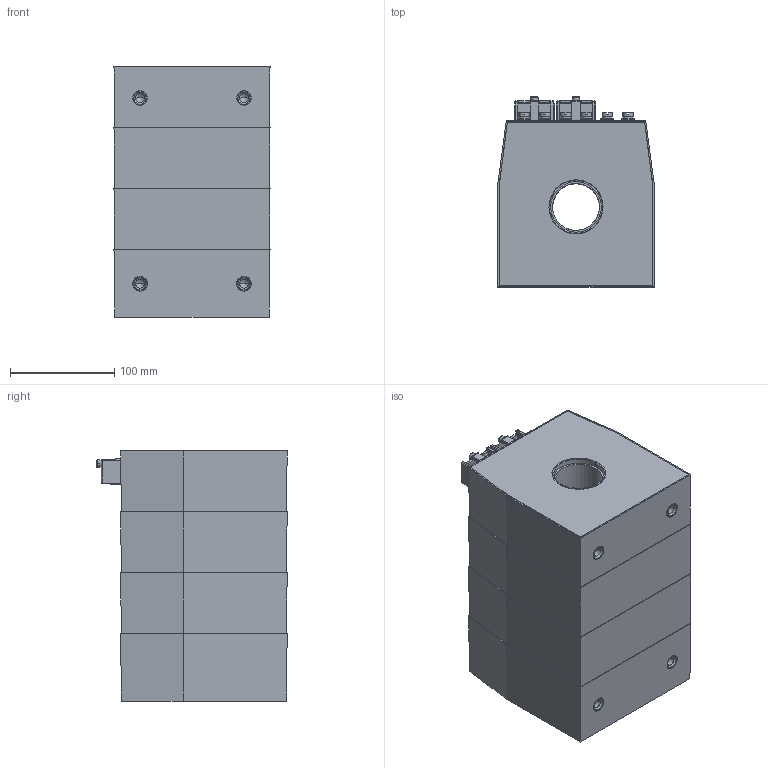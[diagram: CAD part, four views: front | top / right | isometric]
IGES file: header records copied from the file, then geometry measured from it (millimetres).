
Start section: IGES file generated from Kompas f.0 for Windows drawing by the IGES translator from Ascon Ltd., translator version IGESOUT-5.1.
Global section: file name: C:\Ðàáîòà\Èçâåùåíèÿ 5\ÒØÏ-ÍÒÇ-0.66-61...,71...,81... (ñáîðíûé)\Âåðñèÿ îò 21.05.24\3D ìîäåëü\ÒØÏ-ÍÒÇ-0,66-64À\ÒØÏ-ÍÒÇ-0,66-64À (45 ìì, 4-é ãàáàðèò).igs; native system: Kompas( 32 bit ) for Windows; preprocessor: 1.0; author: 123; organization: Microsoft; date: -17750727:093109; units: millimetre
Bounding box: 150 x 182.93 x 240.5 mm (x, y, z)
Volume: 784159.1 mm3; surface area: 524652.9 mm2
Topology: 43 solids, 43 shells, 909 faces, 2120 edges, 1314 vertices
Faces by surface type: revolution 512, bspline 397
